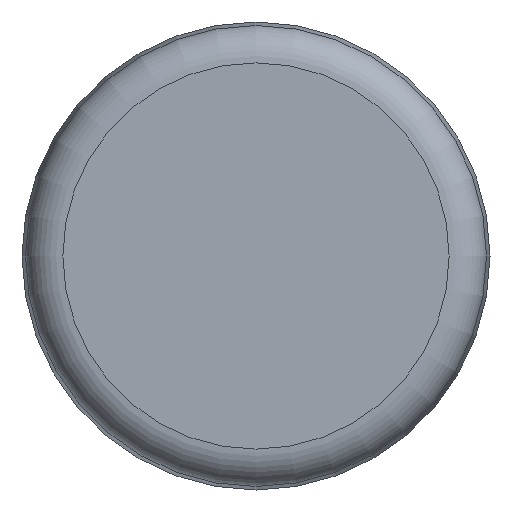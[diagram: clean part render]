
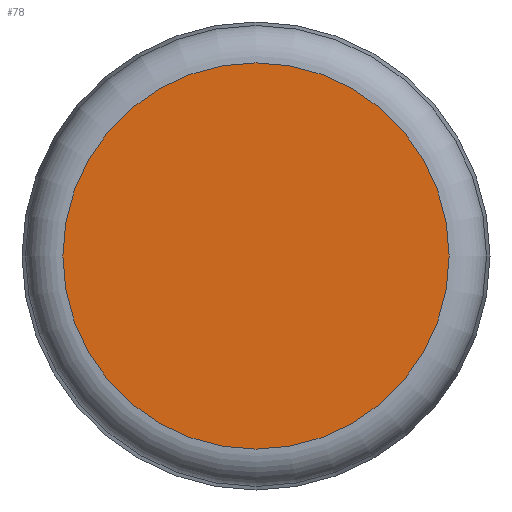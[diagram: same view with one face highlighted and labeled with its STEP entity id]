
A CAD part, front view. The second image highlights one B-rep face of the part: STEP entity #78.
In plain terms, the highlighted planar face has unit normal (0, -1, 0).
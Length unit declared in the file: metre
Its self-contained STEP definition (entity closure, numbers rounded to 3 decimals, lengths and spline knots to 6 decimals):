
#78 = ADVANCED_FACE( '', ( #93 ), #94, .T. );
#93 = FACE_OUTER_BOUND( '', #124, .T. );
#94 = PLANE( '', #125 );
#124 = EDGE_LOOP( '', ( #157 ) );
#125 = AXIS2_PLACEMENT_3D( '', #158, #159, #160 );
#157 = ORIENTED_EDGE( '', *, *, #206, .T. );
#158 = CARTESIAN_POINT( '', ( 0., 0., 0. ) );
#159 = DIRECTION( '', ( 0., -1., 0. ) );
#160 = DIRECTION( '', ( 0., 0., -1. ) );
#206 = EDGE_CURVE( '', #217, #217, #218, .T. );
#217 = VERTEX_POINT( '', #237 );
#218 = CIRCLE( '', #238, 0.010317 );
#237 = CARTESIAN_POINT( '', ( 0., 0., -0.010317 ) );
#238 = AXIS2_PLACEMENT_3D( '', #258, #259, #260 );
#258 = CARTESIAN_POINT( '', ( 0., 0., 0. ) );
#259 = DIRECTION( '', ( 0., -1., 0. ) );
#260 = DIRECTION( '', ( 0., 0., -1. ) );
